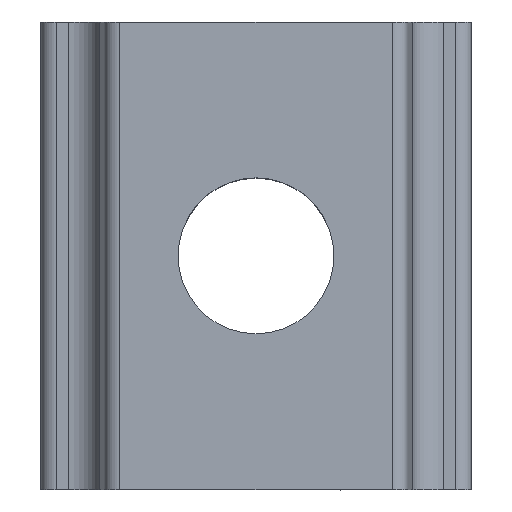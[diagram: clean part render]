
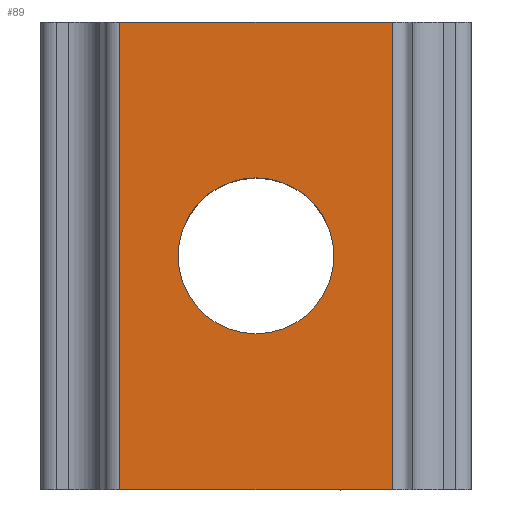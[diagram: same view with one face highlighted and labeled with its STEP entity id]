
A CAD part, top view. The second image highlights one B-rep face of the part: STEP entity #89.
In plain terms, the highlighted planar face has unit normal (0, 0, 1).
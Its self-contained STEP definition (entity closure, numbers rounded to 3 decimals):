
#89=ADVANCED_FACE('',(#175,#176),#177,.F.);
#175=FACE_OUTER_BOUND('',#254,.T.);
#176=FACE_BOUND('',#255,.T.);
#177=PLANE('',#256);
#254=EDGE_LOOP('',(#461,#462,#463,#464));
#255=EDGE_LOOP('',(#465));
#256=AXIS2_PLACEMENT_3D('',#466,#467,#468);
#461=ORIENTED_EDGE('',*,*,#507,.T.);
#462=ORIENTED_EDGE('',*,*,#518,.T.);
#463=ORIENTED_EDGE('',*,*,#549,.F.);
#464=ORIENTED_EDGE('',*,*,#554,.T.);
#465=ORIENTED_EDGE('',*,*,#492,.F.);
#466=CARTESIAN_POINT('',(4.825,-7.5,-0.6));
#467=DIRECTION('',(0.,0.0,-1.));
#468=DIRECTION('',(1.,0.0,0.));
#492=EDGE_CURVE('',#587,#587,#588,.T.);
#507=EDGE_CURVE('',#614,#612,#615,.T.);
#518=EDGE_CURVE('',#612,#631,#634,.F.);
#549=EDGE_CURVE('',#673,#631,#675,.T.);
#554=EDGE_CURVE('',#673,#614,#681,.T.);
#587=VERTEX_POINT('',#721);
#588=CIRCLE('',#722,2.5);
#612=VERTEX_POINT('',#752);
#614=VERTEX_POINT('',#754);
#615=LINE('',#755,#756);
#631=VERTEX_POINT('',#776);
#634=LINE('',#779,#780);
#673=VERTEX_POINT('',#835);
#675=LINE('',#837,#838);
#681=LINE('',#845,#846);
#721=CARTESIAN_POINT('',(2.5,0.,-0.6));
#722=AXIS2_PLACEMENT_3D('',#875,#876,#877);
#752=CARTESIAN_POINT('',(-4.367,7.5,-0.6));
#754=CARTESIAN_POINT('',(4.367,7.5,-0.6));
#755=CARTESIAN_POINT('',(4.825,7.5,-0.6));
#756=VECTOR('',#902,1.0);
#776=CARTESIAN_POINT('',(-4.367,-7.5,-0.6));
#779=CARTESIAN_POINT('',(-4.367,-7.5,-0.6));
#780=VECTOR('',#922,1.0);
#835=CARTESIAN_POINT('',(4.367,-7.5,-0.6));
#837=CARTESIAN_POINT('',(4.825,-7.5,-0.6));
#838=VECTOR('',#954,1.0);
#845=CARTESIAN_POINT('',(4.367,-7.5,-0.6));
#846=VECTOR('',#959,1.0);
#875=CARTESIAN_POINT('',(0.,0.,-0.6));
#876=DIRECTION('',(0.,0.0,1.));
#877=DIRECTION('',(1.,0.0,0.));
#902=DIRECTION('',(-1.,0.0,0.));
#922=DIRECTION('',(0.0,1.0,0.0));
#954=DIRECTION('',(-1.,0.0,0.));
#959=DIRECTION('',(0.0,1.0,0.0));
